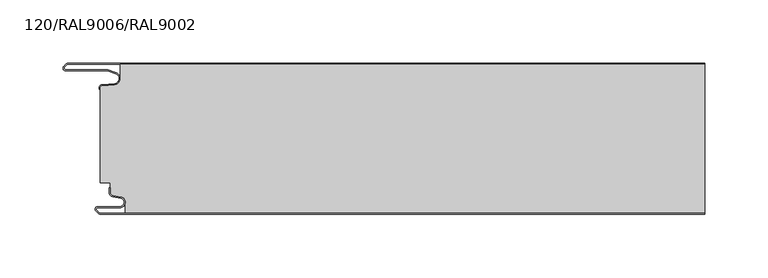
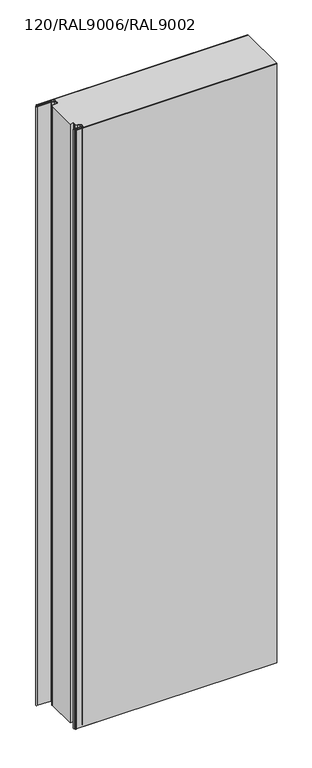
"""IFC4 building model written with IfcOpenShell, lengths in millimetres: plate geometry, TR_C_V_FHL_Panel_cut_GROOVE : 120/RAL9006/RAL9002."""

from ifc_helpers import new_model, si_unit, point, frame, frame_2d, origin, place, context, project, spatial, polyline, circle_curve, trimmed, segment, composite_curve, outline, extrude, source, transform, mapped, element, save


def plate_120_ral9006_ral9002_3610f0f2(model_context):
    return source(origin(), model_context, "Body", "SweptSolid", [
        extrude(outline(composite_curve([segment(polyline([(-242.8999998, -99.0), (-242.0999998, -99.0), (-242.0999998, -102.3925589)]), True, "CONTINUOUS"), segment(trimmed(circle_curve(frame_2d((-239.1499998, -102.3925589)), 2.95), [point((-242.0999998, -102.3925589))], [point((-239.662262, -105.2977418))], True, "CARTESIAN"), True, "CONTINUOUS"), segment(polyline([(-239.662262, -105.2977418), (-233.6119951, -106.364567)]), True, "CONTINUOUS"), segment(trimmed(circle_curve(frame_2d((-234.3499998, -110.55)), 4.25), [point((-233.6119951, -106.364567))], [point((-234.3499998, -114.8))], False, "CARTESIAN"), True, "CONTINUOUS"), segment(polyline([(-234.3499998, -114.8), (-251.9499998, -114.8)]), True, "CONTINUOUS"), segment(trimmed(circle_curve(frame_2d((-251.9499998, -115.95)), 1.15), [point((-251.9499998, -114.8))], [point((-252.7631726, -116.7631728))], True, "CARTESIAN"), True, "CONTINUOUS"), segment(polyline([(-252.7631726, -116.7631728), (-250.8974872, -118.6288582)]), True, "CONTINUOUS"), segment(trimmed(circle_curve(frame_2d((-249.518629, -117.25)), 1.95), [point((-250.8974872, -118.6288582))], [point((-249.518629, -119.2))], True, "CARTESIAN"), True, "CONTINUOUS"), segment(polyline([(-249.518629, -119.2), (229.9999998, -119.2), (229.9999998, -120.0), (-249.518629, -120.0)]), True, "CONTINUOUS"), segment(trimmed(circle_curve(frame_2d((-249.518629, -117.25)), 2.75), [point((-249.518629, -120.0))], [point((-251.4631726, -119.1945436))], False, "CARTESIAN"), True, "CONTINUOUS"), segment(polyline([(-251.4631726, -119.1945436), (-253.3288581, -117.3288582)]), True, "CONTINUOUS"), segment(trimmed(circle_curve(frame_2d((-251.9499998, -115.95)), 1.95), [point((-253.3288581, -117.3288582))], [point((-251.9499998, -114.0))], False, "CARTESIAN"), True, "CONTINUOUS"), segment(polyline([(-251.9499998, -114.0), (-234.3499998, -114.0)]), True, "CONTINUOUS"), segment(trimmed(circle_curve(frame_2d((-234.3499998, -110.55)), 3.45), [point((-234.3499998, -114.0))], [point((-233.7509136, -107.1524133))], True, "CARTESIAN"), True, "CONTINUOUS"), segment(polyline([(-233.7509136, -107.1524133), (-239.8011805, -106.085588)]), True, "CONTINUOUS"), segment(trimmed(circle_curve(frame_2d((-239.1499998, -102.3925589)), 3.75), [point((-239.8011805, -106.085588))], [point((-242.8999998, -102.3925589))], False, "CARTESIAN"), True, "CONTINUOUS"), segment(polyline([(-242.8999998, -102.3925589), (-242.8999998, -99.0)]), True, "CONTINUOUS")], self_intersect=False)), frame((0.0, 0.0, -15.0), z_axis=(0.0, 0.0, 1.0), x_axis=(1.0, 0.0, 0.0)), (0.0, 0.0, 1.0), 1515.0),
        extrude(outline(composite_curve([segment(polyline([(-230.0999998, -119.2), (-230.0999998, -110.55)]), True, "CONTINUOUS"), segment(trimmed(circle_curve(frame_2d((-234.3499998, -110.55)), 4.25), [point((-230.0999998, -110.55))], [point((-233.6119951, -106.364567))], True, "CARTESIAN"), True, "CONTINUOUS"), segment(polyline([(-233.6119951, -106.364567), (-239.662262, -105.2977418)]), True, "CONTINUOUS"), segment(trimmed(circle_curve(frame_2d((-239.1499998, -102.3925589)), 2.95), [point((-239.662262, -105.2977418))], [point((-242.0999998, -102.3925589))], False, "CARTESIAN"), True, "CONTINUOUS"), segment(polyline([(-242.0999998, -102.3925589), (-242.0999998, -94.86), (-249.9999998, -94.86), (-249.9999998, -20.8), (-249.8999998, -19.7908279)]), True, "CONTINUOUS"), segment(trimmed(circle_curve(frame_2d((-248.1999998, -19.7908279)), 1.7), [point((-249.8999998, -19.7908279))], [point((-248.3481646, -18.0972969))], False, "CARTESIAN"), True, "CONTINUOUS"), segment(polyline([(-248.3481646, -18.0972969), (-238.4735883, -17.2333835)]), True, "CONTINUOUS"), segment(trimmed(circle_curve(frame_2d((-238.9006514, -12.3520294)), 4.9), [point((-238.4735883, -17.2333835))], [point((-234.0006514, -12.3520294))], True, "CARTESIAN"), True, "CONTINUOUS"), segment(polyline([(-234.0006514, -12.3520294), (-234.0006514, -0.8), (229.9999998, -0.8), (229.9999998, -119.2), (-230.0999998, -119.2)]), True, "CONTINUOUS")], self_intersect=False)), frame((0.0, 0.0, -15.0), z_axis=(0.0, 0.0, 1.0), x_axis=(1.0, 0.0, 0.0)), (0.0, 0.0, 1.0), 1515.0),
        extrude(outline(composite_curve([segment(trimmed(circle_curve(frame_2d((-275.1006168, -2.7)), 2.7), [point((-277.0752718, -0.8586044))], [point((-275.1006168, 0.0))], False, "CARTESIAN"), True, "CONTINUOUS"), segment(polyline([(-275.1006168, 0.0), (229.9999998, 0.0), (229.9999998, -0.8), (-275.1006168, -0.8)]), True, "CONTINUOUS"), segment(trimmed(circle_curve(frame_2d((-275.1006168, -2.7)), 1.9), [point((-275.1006168, -0.8))], [point((-276.4901888, -1.4042031))], True, "CARTESIAN"), True, "CONTINUOUS"), segment(polyline([(-276.4901888, -1.4042031), (-278.3044889, -3.3498018)]), True, "CONTINUOUS"), segment(trimmed(circle_curve(frame_2d((-277.4999998, -4.1)), 1.1), [point((-278.3044889, -3.3498018))], [point((-277.4999998, -5.2))], True, "CARTESIAN"), True, "CONTINUOUS"), segment(polyline([(-277.4999998, -5.2), (-245.1732716, -5.2)]), True, "CONTINUOUS"), segment(trimmed(circle_curve(frame_2d((-245.1732716, -8.5)), 3.3), [point((-245.1732716, -5.2))], [point((-244.0988967, -5.3797887))], False, "CARTESIAN"), True, "CONTINUOUS"), segment(polyline([(-244.0988967, -5.3797887), (-237.3053674, -7.7189884)]), True, "CONTINUOUS"), segment(trimmed(circle_curve(frame_2d((-238.9006514, -12.3520294)), 4.9), [point((-237.3053674, -7.7189884))], [point((-238.4735883, -17.2333835))], False, "CARTESIAN"), True, "CONTINUOUS"), segment(polyline([(-238.4735883, -17.2333835), (-248.3481646, -18.0972969)]), True, "CONTINUOUS"), segment(trimmed(circle_curve(frame_2d((-248.1999998, -19.7908279)), 1.7), [point((-248.3481646, -18.0972969))], [point((-249.8999998, -19.7908279))], True, "CARTESIAN"), True, "CONTINUOUS"), segment(polyline([(-249.8999998, -19.7908279), (-249.8999998, -20.8), (-250.6999998, -20.8), (-250.6999998, -19.7908279)]), True, "CONTINUOUS"), segment(trimmed(circle_curve(frame_2d((-248.1999998, -19.7908279)), 2.5), [point((-250.6999998, -19.7908279))], [point((-248.4178892, -17.3003412))], False, "CARTESIAN"), True, "CONTINUOUS"), segment(polyline([(-248.4178892, -17.3003412), (-238.5433129, -16.4364277)]), True, "CONTINUOUS"), segment(trimmed(circle_curve(frame_2d((-238.9006514, -12.3520294)), 4.1), [point((-238.5433129, -16.4364277))], [point((-237.565822, -8.4754033))], True, "CARTESIAN"), True, "CONTINUOUS"), segment(polyline([(-237.565822, -8.4754033), (-244.3593512, -6.1362036)]), True, "CONTINUOUS"), segment(trimmed(circle_curve(frame_2d((-245.1732716, -8.5)), 2.5), [point((-244.3593512, -6.1362036))], [point((-245.1732716, -6.0))], True, "CARTESIAN"), True, "CONTINUOUS"), segment(polyline([(-245.1732716, -6.0), (-277.4999998, -6.0)]), True, "CONTINUOUS"), segment(trimmed(circle_curve(frame_2d((-277.4999998, -4.1)), 1.9), [point((-277.4999998, -6.0))], [point((-278.8895719, -2.8042031))], False, "CARTESIAN"), True, "CONTINUOUS"), segment(polyline([(-278.8895719, -2.8042031), (-277.0752718, -0.8586044)]), True, "CONTINUOUS")], self_intersect=False)), frame((0.0, 0.0, -15.0), z_axis=(0.0, 0.0, 1.0), x_axis=(1.0, 0.0, 0.0)), (0.0, 0.0, 1.0), 1515.0),
    ])


if __name__ == "__main__":
    model = new_model("IFC4")
    model_context = context("Model", 3, world=origin())
    ifc_project = project(units=[si_unit("LENGTHUNIT", "METRE", prefix="MILLI")], contexts=[model_context])
    site = spatial("IfcSite", under=ifc_project)
    building = spatial("IfcBuilding", under=site)
    placement = place(None, origin())
    plate_120_ral9006_ral9002_shape = plate_120_ral9006_ral9002_3610f0f2(model_context)
    element("IfcPlate", 1, ObjectType="TR_C_V_FHL_Panel_cut_GROOVE : 120/RAL9006/RAL9002", at=placement, inside=building, context=model_context, shape_type="MappedRepresentation", body=[
        mapped(plate_120_ral9006_ral9002_shape, transform((0.0, 0.0, 0.0), x_axis=(1.0, 0.0, 0.0), y_axis=(0.0, 1.0, 0.0), z_axis=(0.0, 0.0, 1.0))),
    ])
    save(model, "model.ifc")
